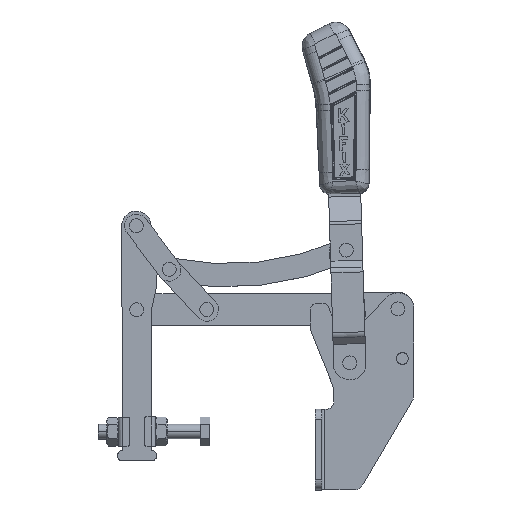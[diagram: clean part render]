
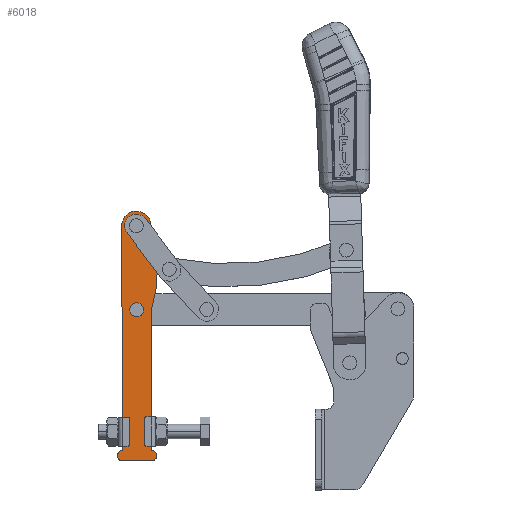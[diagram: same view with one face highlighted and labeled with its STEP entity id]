
A CAD part, top view. The second image highlights one B-rep face of the part: STEP entity #6018.
In plain terms, the highlighted planar face has unit normal (0, 0, 1) as drawn and (0, 1, 0) by its records, which use the part's own axes.
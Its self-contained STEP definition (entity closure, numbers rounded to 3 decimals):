
#271 = ORIENTED_EDGE ( 'NONE', *, *, #7005, .T. ) ;
#577 = CARTESIAN_POINT ( 'NONE',  ( 0., 0., -75.5 ) ) ;
#684 = CARTESIAN_POINT ( 'NONE',  ( -10., 0., 85.5 ) ) ;
#942 = DIRECTION ( 'NONE',  ( 0., 0., -1. ) ) ;
#1253 = CARTESIAN_POINT ( 'NONE',  ( -10., 0., 82. ) ) ;
#2067 = VECTOR ( 'NONE', #21623, 1000. ) ;
#2622 = DIRECTION ( 'NONE',  ( 0., 0., 1. ) ) ;
#2662 = LINE ( 'NONE', #10664, #12355 ) ;
#2763 = DIRECTION ( 'NONE',  ( 0., 1., 0. ) ) ;
#3298 = DIRECTION ( 'NONE',  ( 0., 0., 1. ) ) ;
#3426 = CARTESIAN_POINT ( 'NONE',  ( 10., 0., 82. ) ) ;
#3687 = DIRECTION ( 'NONE',  ( 0., 1., 0. ) ) ;
#3726 = CIRCLE ( 'NONE', #7189, 3.5 ) ;
#3980 = VERTEX_POINT ( 'NONE', #13230 ) ;
#4282 = VERTEX_POINT ( 'NONE', #12240 ) ;
#5008 = CARTESIAN_POINT ( 'NONE',  ( 10., 0., -85.5 ) ) ;
#5513 = DIRECTION ( 'NONE',  ( 0., 0., 1. ) ) ;
#5744 = CARTESIAN_POINT ( 'NONE',  ( -85.5, 0., -47.398 ) ) ;
#5935 = ORIENTED_EDGE ( 'NONE', *, *, #19710, .F. ) ;
#6018 = ADVANCED_FACE ( 'NONE', ( #9587, #20016, #14439 ), #19510, .F. ) ;
#6117 = CIRCLE ( 'NONE', #15347, 10. ) ;
#6543 = ORIENTED_EDGE ( 'NONE', *, *, #21641, .T. ) ;
#6633 = CARTESIAN_POINT ( 'NONE',  ( 0., 0., -71.5 ) ) ;
#6847 = VERTEX_POINT ( 'NONE', #21577 ) ;
#7005 = EDGE_CURVE ( 'NONE', #3980, #8128, #3726, .T. ) ;
#7129 = ORIENTED_EDGE ( 'NONE', *, *, #11586, .F. ) ;
#7189 = AXIS2_PLACEMENT_3D ( 'NONE', #3426, #17939, #5513 ) ;
#7544 = CARTESIAN_POINT ( 'NONE',  ( 0., 0., -75.5 ) ) ;
#7819 = DIRECTION ( 'NONE',  ( 0., 0., -1. ) ) ;
#7873 = ORIENTED_EDGE ( 'NONE', *, *, #25316, .F. ) ;
#7933 = EDGE_CURVE ( 'NONE', #22236, #4282, #6117, .T. ) ;
#7955 = CIRCLE ( 'NONE', #18586, 3.5 ) ;
#8128 = VERTEX_POINT ( 'NONE', #16333 ) ;
#9010 = CARTESIAN_POINT ( 'NONE',  ( 0., 0., -75.5 ) ) ;
#9245 = CIRCLE ( 'NONE', #23251, 4. ) ;
#9263 = CIRCLE ( 'NONE', #20186, 4. ) ;
#9446 = VERTEX_POINT ( 'NONE', #15657 ) ;
#9587 = FACE_OUTER_BOUND ( 'NONE', #12638, .T. ) ;
#9621 = DIRECTION ( 'NONE',  ( 0., 0., -1. ) ) ;
#9821 = ORIENTED_EDGE ( 'NONE', *, *, #24239, .T. ) ;
#10563 = EDGE_CURVE ( 'NONE', #6847, #10997, #9245, .T. ) ;
#10664 = CARTESIAN_POINT ( 'NONE',  ( -10., 0., 85.5 ) ) ;
#10682 = EDGE_CURVE ( 'NONE', #22257, #12626, #7955, .T. ) ;
#10997 = VERTEX_POINT ( 'NONE', #6633 ) ;
#11055 = DIRECTION ( 'NONE',  ( 0., 0., 1. ) ) ;
#11586 = EDGE_CURVE ( 'NONE', #10997, #6847, #26779, .T. ) ;
#12131 = ORIENTED_EDGE ( 'NONE', *, *, #10563, .F. ) ;
#12240 = CARTESIAN_POINT ( 'NONE',  ( -10., 0., -75.5 ) ) ;
#12355 = VECTOR ( 'NONE', #14829, 1000. ) ;
#12626 = VERTEX_POINT ( 'NONE', #684 ) ;
#12638 = EDGE_LOOP ( 'NONE', ( #19413, #271, #9821, #6543, #24959, #20965, #20397 ) ) ;
#13230 = CARTESIAN_POINT ( 'NONE',  ( 10., 0., 85.5 ) ) ;
#13277 = DIRECTION ( 'NONE',  ( 0., -1., 0. ) ) ;
#13946 = LINE ( 'NONE', #19402, #24368 ) ;
#14439 = FACE_BOUND ( 'NONE', #22567, .T. ) ;
#14608 = CIRCLE ( 'NONE', #26572, 4. ) ;
#14829 = DIRECTION ( 'NONE',  ( 0., 0., 1. ) ) ;
#14982 = DIRECTION ( 'NONE',  ( 0., 1., 0. ) ) ;
#15136 = CARTESIAN_POINT ( 'NONE',  ( 0., 0., -18. ) ) ;
#15347 = AXIS2_PLACEMENT_3D ( 'NONE', #7544, #22065, #9621 ) ;
#15657 = CARTESIAN_POINT ( 'NONE',  ( 10., 0., -17.737 ) ) ;
#15687 = DIRECTION ( 'NONE',  ( 0., 1., 0. ) ) ;
#16066 = EDGE_CURVE ( 'NONE', #12626, #3980, #13946, .T. ) ;
#16091 = CARTESIAN_POINT ( 'NONE',  ( 0., 0., -18. ) ) ;
#16333 = CARTESIAN_POINT ( 'NONE',  ( 10., 0., 78.5 ) ) ;
#16390 = VERTEX_POINT ( 'NONE', #24556 ) ;
#16675 = CIRCLE ( 'NONE', #24044, 100. ) ;
#17235 = DIRECTION ( 'NONE',  ( 0., 0., 1. ) ) ;
#17939 = DIRECTION ( 'NONE',  ( 0., 1., 0. ) ) ;
#18212 = DIRECTION ( 'NONE',  ( 0., 0., 1. ) ) ;
#18586 = AXIS2_PLACEMENT_3D ( 'NONE', #1253, #15687, #3298 ) ;
#19246 = LINE ( 'NONE', #5008, #2067 ) ;
#19334 = CARTESIAN_POINT ( 'NONE',  ( 0., 0., -14. ) ) ;
#19402 = CARTESIAN_POINT ( 'NONE',  ( 10., 0., 85.5 ) ) ;
#19413 = ORIENTED_EDGE ( 'NONE', *, *, #16066, .T. ) ;
#19510 = PLANE ( 'NONE',  #23176 ) ;
#19710 = EDGE_CURVE ( 'NONE', #16390, #26724, #9263, .T. ) ;
#20016 = FACE_BOUND ( 'NONE', #23089, .T. ) ;
#20186 = AXIS2_PLACEMENT_3D ( 'NONE', #15136, #2763, #17235 ) ;
#20263 = DIRECTION ( 'NONE',  ( 0., 1., 0. ) ) ;
#20397 = ORIENTED_EDGE ( 'NONE', *, *, #10682, .T. ) ;
#20965 = ORIENTED_EDGE ( 'NONE', *, *, #25096, .T. ) ;
#21471 = DIRECTION ( 'NONE',  ( 1., 0., 0. ) ) ;
#21577 = CARTESIAN_POINT ( 'NONE',  ( 0., 0., -79.5 ) ) ;
#21623 = DIRECTION ( 'NONE',  ( 0., 0., -1. ) ) ;
#21641 = EDGE_CURVE ( 'NONE', #9446, #22236, #16675, .T. ) ;
#22065 = DIRECTION ( 'NONE',  ( 0., 1., 0. ) ) ;
#22236 = VERTEX_POINT ( 'NONE', #24580 ) ;
#22257 = VERTEX_POINT ( 'NONE', #26673 ) ;
#22567 = EDGE_LOOP ( 'NONE', ( #7129, #12131 ) ) ;
#23089 = EDGE_LOOP ( 'NONE', ( #7873, #5935 ) ) ;
#23176 = AXIS2_PLACEMENT_3D ( 'NONE', #23671, #13277, #942 ) ;
#23251 = AXIS2_PLACEMENT_3D ( 'NONE', #9010, #23514, #11055 ) ;
#23514 = DIRECTION ( 'NONE',  ( 0., 1., 0. ) ) ;
#23671 = CARTESIAN_POINT ( 'NONE',  ( 0., 0., 0. ) ) ;
#24044 = AXIS2_PLACEMENT_3D ( 'NONE', #5744, #20263, #7819 ) ;
#24239 = EDGE_CURVE ( 'NONE', #8128, #9446, #19246, .T. ) ;
#24368 = VECTOR ( 'NONE', #21471, 1000. ) ;
#24556 = CARTESIAN_POINT ( 'NONE',  ( 0., 0., -22. ) ) ;
#24580 = CARTESIAN_POINT ( 'NONE',  ( 9.5, 0., -78.622 ) ) ;
#24959 = ORIENTED_EDGE ( 'NONE', *, *, #7933, .T. ) ;
#25096 = EDGE_CURVE ( 'NONE', #4282, #22257, #2662, .T. ) ;
#25316 = EDGE_CURVE ( 'NONE', #26724, #16390, #14608, .T. ) ;
#25712 = AXIS2_PLACEMENT_3D ( 'NONE', #577, #14982, #2622 ) ;
#26572 = AXIS2_PLACEMENT_3D ( 'NONE', #16091, #3687, #18212 ) ;
#26673 = CARTESIAN_POINT ( 'NONE',  ( -10., 0., 78.5 ) ) ;
#26724 = VERTEX_POINT ( 'NONE', #19334 ) ;
#26779 = CIRCLE ( 'NONE', #25712, 4. ) ;
